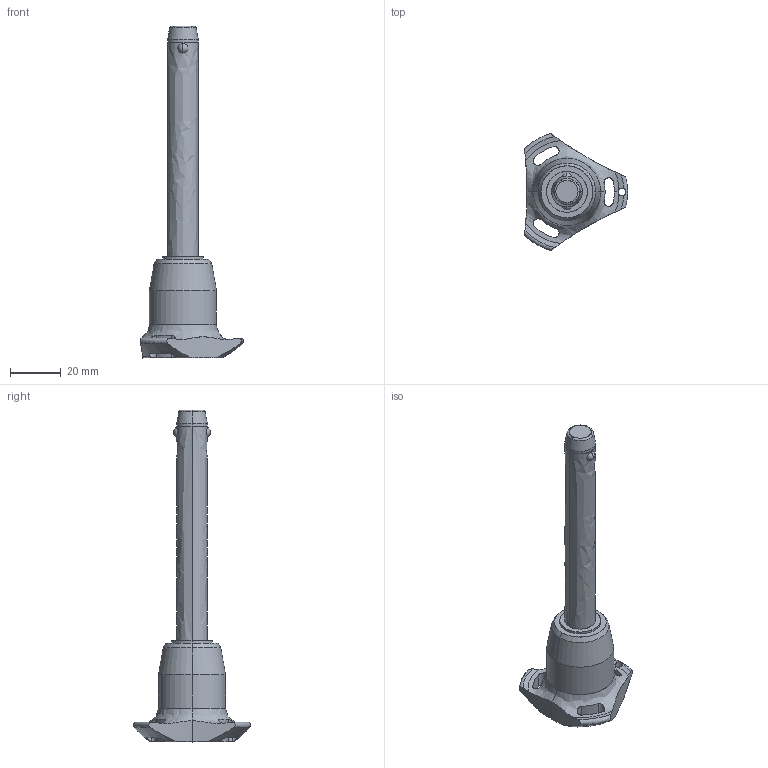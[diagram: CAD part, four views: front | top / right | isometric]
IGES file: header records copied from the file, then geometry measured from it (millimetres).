
Start section: SolidWorks IGES file using analytic representation for surfaces
Global section: file name: C:\Users\ianosborn\Desktop\QR1716_v2\QR1716_v2_20251114_IGES\QR1716.M12-080-T.igs; native system: SolidWorks 2019; preprocessor: SolidWorks 2019; author: IanOsborn; date: 251113.103728; units: millimetre
Bounding box: 40.5 x 45.88 x 130.3 mm (x, y, z)
Surface area: 9353.8 mm2 (no closed solid volume)
Topology: 0 solids, 0 shells, 68 faces, 1435 edges, 1431 vertices
Faces by surface type: revolution 52, bspline 16
